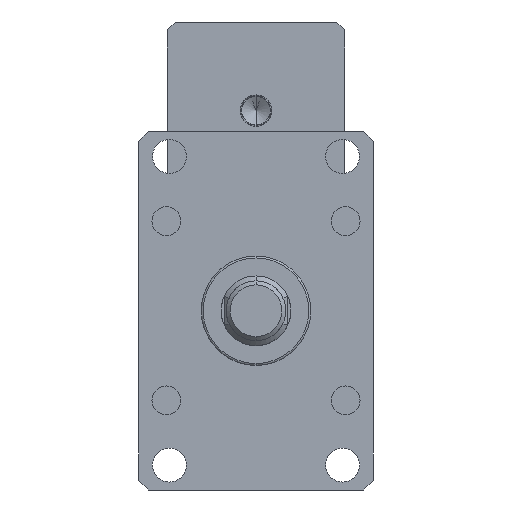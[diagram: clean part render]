
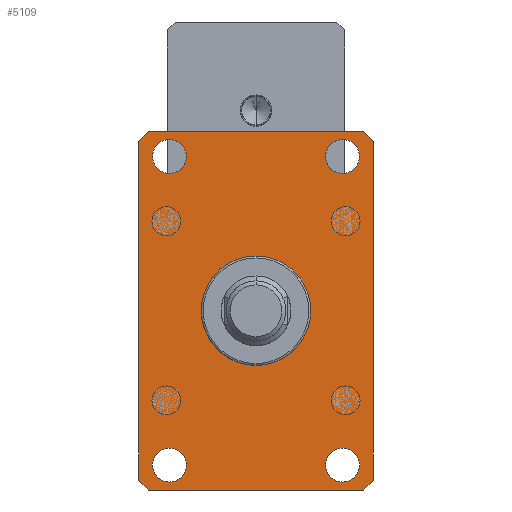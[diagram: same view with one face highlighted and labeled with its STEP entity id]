
A CAD part, front view. The second image highlights one B-rep face of the part: STEP entity #5109.
In plain terms, the highlighted planar face has unit normal (0, -1, 0).
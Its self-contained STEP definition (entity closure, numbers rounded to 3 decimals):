
#114 = DIRECTION ( 'NONE',  ( 0., 0., -1. ) ) ;
#153 = CARTESIAN_POINT ( 'NONE',  ( 59., -55., -90. ) ) ;
#175 = AXIS2_PLACEMENT_3D ( 'NONE', #8235, #2248, #9218 ) ;
#216 = EDGE_CURVE ( 'NONE', #1655, #3446, #11834, .T. ) ;
#250 = CIRCLE ( 'NONE', #175, 8.5 ) ;
#333 = CARTESIAN_POINT ( 'NONE',  ( 43.5, -55., -77.5 ) ) ;
#460 = VERTEX_POINT ( 'NONE', #10669 ) ;
#511 = VECTOR ( 'NONE', #12561, 1000. ) ;
#668 = EDGE_CURVE ( 'NONE', #2554, #10819, #12693, .T. ) ;
#713 = EDGE_CURVE ( 'NONE', #11656, #6179, #6889, .T. ) ;
#730 = EDGE_CURVE ( 'NONE', #1028, #11656, #4529, .T. ) ;
#747 = EDGE_CURVE ( 'NONE', #5359, #1028, #1289, .T. ) ;
#994 = EDGE_CURVE ( 'NONE', #6179, #7727, #11076, .T. ) ;
#1028 = VERTEX_POINT ( 'NONE', #1947 ) ;
#1289 = LINE ( 'NONE', #2174, #11529 ) ;
#1313 = AXIS2_PLACEMENT_3D ( 'NONE', #10101, #4134, #11087 ) ;
#1315 = DIRECTION ( 'NONE',  ( 1., 0., 0. ) ) ;
#1320 = DIRECTION ( 'NONE',  ( 0., 0., 1. ) ) ;
#1324 = CARTESIAN_POINT ( 'NONE',  ( -59., -55., -85. ) ) ;
#1335 = ORIENTED_EDGE ( 'NONE', *, *, #7536, .T. ) ;
#1410 = EDGE_LOOP ( 'NONE', ( #3527, #8624 ) ) ;
#1492 = CARTESIAN_POINT ( 'NONE',  ( 43.5, -55., 69. ) ) ;
#1587 = ORIENTED_EDGE ( 'NONE', *, *, #7940, .T. ) ;
#1655 = VERTEX_POINT ( 'NONE', #3513 ) ;
#1698 = EDGE_LOOP ( 'NONE', ( #1587, #11746, #12012, #1335, #7034, #8709, #11424, #7910 ) ) ;
#1726 = VERTEX_POINT ( 'NONE', #11620 ) ;
#1947 = CARTESIAN_POINT ( 'NONE',  ( -54., -55., 90. ) ) ;
#2027 = DIRECTION ( 'NONE',  ( 0., 0., 1. ) ) ;
#2133 = DIRECTION ( 'NONE',  ( 0., 1., 0. ) ) ;
#2174 = CARTESIAN_POINT ( 'NONE',  ( -54., -55., 90. ) ) ;
#2248 = DIRECTION ( 'NONE',  ( 0., 1., 0. ) ) ;
#2554 = VERTEX_POINT ( 'NONE', #1492 ) ;
#2667 = EDGE_CURVE ( 'NONE', #10819, #2554, #4128, .T. ) ;
#2670 = AXIS2_PLACEMENT_3D ( 'NONE', #333, #7285, #1320 ) ;
#2824 = CARTESIAN_POINT ( 'NONE',  ( -54., -55., -90. ) ) ;
#2840 = EDGE_CURVE ( 'NONE', #1726, #9965, #5216, .T. ) ;
#2917 = EDGE_CURVE ( 'NONE', #6296, #460, #12171, .T. ) ;
#2948 = CARTESIAN_POINT ( 'NONE',  ( 43.5, -55., -77.5 ) ) ;
#3292 = VECTOR ( 'NONE', #9430, 1000. ) ;
#3360 = EDGE_CURVE ( 'NONE', #3446, #1655, #250, .T. ) ;
#3446 = VERTEX_POINT ( 'NONE', #6418 ) ;
#3513 = CARTESIAN_POINT ( 'NONE',  ( -43.5, -55., -86. ) ) ;
#3527 = ORIENTED_EDGE ( 'NONE', *, *, #2917, .F. ) ;
#3637 = ORIENTED_EDGE ( 'NONE', *, *, #3360, .T. ) ;
#3648 = DIRECTION ( 'NONE',  ( 0., -1., 0. ) ) ;
#3906 = VECTOR ( 'NONE', #9109, 1000. ) ;
#3945 = DIRECTION ( 'NONE',  ( 0., 0., 1. ) ) ;
#4125 = PLANE ( 'NONE',  #5512 ) ;
#4128 = CIRCLE ( 'NONE', #11763, 8.5 ) ;
#4134 = DIRECTION ( 'NONE',  ( 0., -1., 0. ) ) ;
#4274 = AXIS2_PLACEMENT_3D ( 'NONE', #9034, #8303, #8255 ) ;
#4497 = ORIENTED_EDGE ( 'NONE', *, *, #2667, .F. ) ;
#4529 = LINE ( 'NONE', #8115, #3906 ) ;
#4568 = FACE_BOUND ( 'NONE', #10756, .T. ) ;
#4606 = CARTESIAN_POINT ( 'NONE',  ( 43.5, -55., -69. ) ) ;
#4650 = ORIENTED_EDGE ( 'NONE', *, *, #2840, .T. ) ;
#4697 = EDGE_CURVE ( 'NONE', #9965, #1726, #6946, .T. ) ;
#4997 = DIRECTION ( 'NONE',  ( 0., -1., 0. ) ) ;
#5014 = ORIENTED_EDGE ( 'NONE', *, *, #216, .T. ) ;
#5109 = ADVANCED_FACE ( 'NONE', ( #12454, #4568, #10509, #7244, #9888 ), #4125, .F. ) ;
#5216 = CIRCLE ( 'NONE', #9576, 8.5 ) ;
#5359 = VERTEX_POINT ( 'NONE', #6739 ) ;
#5511 = EDGE_CURVE ( 'NONE', #9913, #6492, #6454, .T. ) ;
#5512 = AXIS2_PLACEMENT_3D ( 'NONE', #153, #2133, #6131 ) ;
#5719 = CARTESIAN_POINT ( 'NONE',  ( 43.5, -55., 86. ) ) ;
#5810 = VECTOR ( 'NONE', #2027, 1000. ) ;
#5848 = CARTESIAN_POINT ( 'NONE',  ( -43.5, -55., 77.5 ) ) ;
#6131 = DIRECTION ( 'NONE',  ( 0., 0., 1. ) ) ;
#6179 = VERTEX_POINT ( 'NONE', #1324 ) ;
#6296 = VERTEX_POINT ( 'NONE', #11592 ) ;
#6418 = CARTESIAN_POINT ( 'NONE',  ( -43.5, -55., -69. ) ) ;
#6454 = LINE ( 'NONE', #8011, #5810 ) ;
#6492 = VERTEX_POINT ( 'NONE', #11951 ) ;
#6507 = ORIENTED_EDGE ( 'NONE', *, *, #4697, .T. ) ;
#6509 = CARTESIAN_POINT ( 'NONE',  ( 59., -55., -85. ) ) ;
#6739 = CARTESIAN_POINT ( 'NONE',  ( 54., -55., 90. ) ) ;
#6860 = DIRECTION ( 'NONE',  ( 0., 0., -1. ) ) ;
#6889 = LINE ( 'NONE', #10055, #12130 ) ;
#6946 = CIRCLE ( 'NONE', #2670, 8.5 ) ;
#6947 = EDGE_CURVE ( 'NONE', #460, #6296, #10941, .T. ) ;
#7034 = ORIENTED_EDGE ( 'NONE', *, *, #747, .T. ) ;
#7066 = DIRECTION ( 'NONE',  ( 0.707, 0., 0.707 ) ) ;
#7244 = FACE_OUTER_BOUND ( 'NONE', #1698, .T. ) ;
#7285 = DIRECTION ( 'NONE',  ( 0., 1., 0. ) ) ;
#7470 = EDGE_LOOP ( 'NONE', ( #4497, #10854 ) ) ;
#7536 = EDGE_CURVE ( 'NONE', #6492, #5359, #10924, .T. ) ;
#7727 = VERTEX_POINT ( 'NONE', #2824 ) ;
#7823 = VECTOR ( 'NONE', #7066, 1000. ) ;
#7839 = EDGE_CURVE ( 'NONE', #12426, #9913, #8147, .T. ) ;
#7910 = ORIENTED_EDGE ( 'NONE', *, *, #994, .T. ) ;
#7940 = EDGE_CURVE ( 'NONE', #7727, #12426, #9221, .T. ) ;
#8011 = CARTESIAN_POINT ( 'NONE',  ( 59., -55., 85. ) ) ;
#8086 = CARTESIAN_POINT ( 'NONE',  ( 54., -55., -90. ) ) ;
#8115 = CARTESIAN_POINT ( 'NONE',  ( -59., -55., 85. ) ) ;
#8147 = LINE ( 'NONE', #8086, #7823 ) ;
#8196 = EDGE_LOOP ( 'NONE', ( #3637, #5014 ) ) ;
#8235 = CARTESIAN_POINT ( 'NONE',  ( -43.5, -55., -77.5 ) ) ;
#8255 = DIRECTION ( 'NONE',  ( 0., 0., 1. ) ) ;
#8303 = DIRECTION ( 'NONE',  ( 0., 1., 0. ) ) ;
#8624 = ORIENTED_EDGE ( 'NONE', *, *, #6947, .F. ) ;
#8709 = ORIENTED_EDGE ( 'NONE', *, *, #730, .T. ) ;
#8724 = AXIS2_PLACEMENT_3D ( 'NONE', #10961, #4997, #11914 ) ;
#9034 = CARTESIAN_POINT ( 'NONE',  ( -43.5, -55., -77.5 ) ) ;
#9109 = DIRECTION ( 'NONE',  ( -0.707, 0., -0.707 ) ) ;
#9154 = DIRECTION ( 'NONE',  ( -1., 0., 0. ) ) ;
#9218 = DIRECTION ( 'NONE',  ( 0., 0., 1. ) ) ;
#9221 = LINE ( 'NONE', #9289, #11807 ) ;
#9289 = CARTESIAN_POINT ( 'NONE',  ( -54., -55., -90. ) ) ;
#9430 = DIRECTION ( 'NONE',  ( -0.707, 0., 0.707 ) ) ;
#9462 = CARTESIAN_POINT ( 'NONE',  ( -59., -55., 85. ) ) ;
#9473 = CARTESIAN_POINT ( 'NONE',  ( 54., -55., 90. ) ) ;
#9576 = AXIS2_PLACEMENT_3D ( 'NONE', #2948, #9933, #3945 ) ;
#9629 = CARTESIAN_POINT ( 'NONE',  ( 43.5, -55., 77.5 ) ) ;
#9651 = CARTESIAN_POINT ( 'NONE',  ( -59., -55., -85. ) ) ;
#9888 = FACE_BOUND ( 'NONE', #7470, .T. ) ;
#9913 = VERTEX_POINT ( 'NONE', #6509 ) ;
#9933 = DIRECTION ( 'NONE',  ( 0., 1., 0. ) ) ;
#9965 = VERTEX_POINT ( 'NONE', #4606 ) ;
#10055 = CARTESIAN_POINT ( 'NONE',  ( -59., -55., 85. ) ) ;
#10101 = CARTESIAN_POINT ( 'NONE',  ( -43.5, -55., 77.5 ) ) ;
#10509 = FACE_BOUND ( 'NONE', #8196, .T. ) ;
#10601 = CARTESIAN_POINT ( 'NONE',  ( 54., -55., -90. ) ) ;
#10627 = DIRECTION ( 'NONE',  ( 0., 0., -1. ) ) ;
#10669 = CARTESIAN_POINT ( 'NONE',  ( -43.5, -55., 69. ) ) ;
#10756 = EDGE_LOOP ( 'NONE', ( #6507, #4650 ) ) ;
#10819 = VERTEX_POINT ( 'NONE', #5719 ) ;
#10854 = ORIENTED_EDGE ( 'NONE', *, *, #668, .F. ) ;
#10924 = LINE ( 'NONE', #9473, #3292 ) ;
#10941 = CIRCLE ( 'NONE', #11919, 8.5 ) ;
#10961 = CARTESIAN_POINT ( 'NONE',  ( 43.5, -55., 77.5 ) ) ;
#11076 = LINE ( 'NONE', #9651, #511 ) ;
#11087 = DIRECTION ( 'NONE',  ( 0., 0., -1. ) ) ;
#11424 = ORIENTED_EDGE ( 'NONE', *, *, #713, .T. ) ;
#11529 = VECTOR ( 'NONE', #9154, 1000. ) ;
#11592 = CARTESIAN_POINT ( 'NONE',  ( -43.5, -55., 86. ) ) ;
#11620 = CARTESIAN_POINT ( 'NONE',  ( 43.5, -55., -86. ) ) ;
#11656 = VERTEX_POINT ( 'NONE', #9462 ) ;
#11746 = ORIENTED_EDGE ( 'NONE', *, *, #7839, .T. ) ;
#11763 = AXIS2_PLACEMENT_3D ( 'NONE', #9629, #3648, #10627 ) ;
#11807 = VECTOR ( 'NONE', #1315, 1000. ) ;
#11834 = CIRCLE ( 'NONE', #4274, 8.5 ) ;
#11914 = DIRECTION ( 'NONE',  ( 0., 0., -1. ) ) ;
#11919 = AXIS2_PLACEMENT_3D ( 'NONE', #5848, #12708, #6860 ) ;
#11951 = CARTESIAN_POINT ( 'NONE',  ( 59., -55., 85. ) ) ;
#12012 = ORIENTED_EDGE ( 'NONE', *, *, #5511, .T. ) ;
#12130 = VECTOR ( 'NONE', #114, 1000. ) ;
#12171 = CIRCLE ( 'NONE', #1313, 8.5 ) ;
#12426 = VERTEX_POINT ( 'NONE', #10601 ) ;
#12454 = FACE_BOUND ( 'NONE', #1410, .T. ) ;
#12561 = DIRECTION ( 'NONE',  ( 0.707, 0., -0.707 ) ) ;
#12693 = CIRCLE ( 'NONE', #8724, 8.5 ) ;
#12708 = DIRECTION ( 'NONE',  ( 0., -1., 0. ) ) ;
